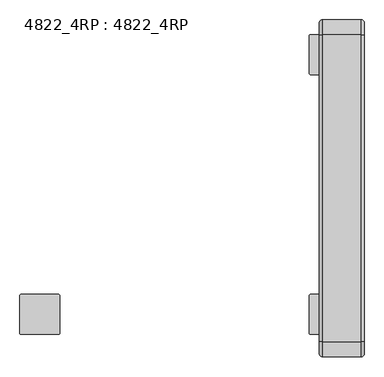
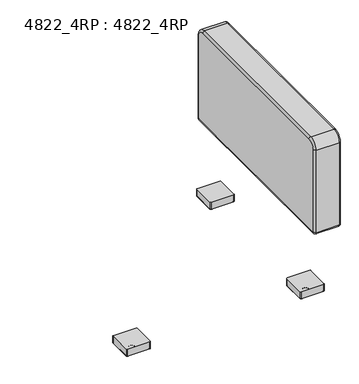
"""IFC4 building model written with IfcOpenShell, lengths in millimetres: furniture geometry, 4822_4RP : 4822_4RP."""

from ifc_helpers import new_model, si_unit, point, frame, frame_2d, origin, place, context, project, spatial, polyline, circle_curve, ellipse_curve, trimmed, segment, composite_curve, outline, extrude, source, transform, mapped, element, save
from ifc_brep_helpers import plane_surface, cylinder_surface, revolved_surface, advanced_brep


def furniture_4822_4rp_4822_4rp_09ea465e(model_context):
    return source(origin(), model_context, "Body", "SolidModel", [
        advanced_brep(
        [(457.2, -8.89, 698.8175), (457.2, -38.1, 728.0275), (457.2, -819.15, 728.0275), (457.2, -848.36, 698.8175), (457.2, -848.36, 330.4403326), (457.2, -847.8021674, 329.8825), (457.2, -9.4347305, 329.8825), (457.2, -8.89, 330.4272305), (342.9, -38.1, 728.0275), (342.9, -8.89, 698.8175), (342.9, -8.89, 330.4272305), (342.9, -9.4347305, 329.8825), (342.9, -847.8021674, 329.8825), (342.9, -848.36, 330.4403326), (342.9, -848.36, 698.8175), (342.9, -819.15, 728.0275), (351.79, -38.1, 736.9175), (351.79, -819.15, 736.9175), (448.31, -819.15, 736.9175), (448.31, -38.1, 736.9175), (351.79, -857.25, 698.8175), (448.31, -857.25, 698.8175), (351.79, -857.25, 330.4403326), (448.31, -857.25, 330.4403326), (351.79, -847.8021674, 320.9925), (448.31, -847.8021674, 320.9925), (351.79, -9.4347305, 320.9925), (448.31, -9.4347305, 320.9925), (400.05, -161.925, 320.9925), (400.05, -187.325, 320.9925), (400.05, -669.925, 320.9925), (400.05, -695.325, 320.9925), (351.79, 0.0, 330.4272305), (448.31, 0.0, 330.4272305), (351.79, 0.0, 698.8175), (448.31, 0.0, 698.8175), (400.05, -161.925, 333.6925), (400.05, -187.325, 333.6925), (400.05, -669.925, 333.6925), (400.05, -695.325, 333.6925)],
        [
            (0, 1, circle_curve(frame((457.2, -38.1, 698.8175), z_axis=(1.0, 0.0, 0.0), x_axis=(0.0, 0.0, 1.0)), 29.21)),
            (1, 2),
            (2, 3, circle_curve(frame((457.2, -819.15, 698.8175), z_axis=(1.0, 0.0, 0.0), x_axis=(0.0, -1.0, 0.0)), 29.21)),
            (3, 4),
            (4, 5, circle_curve(frame((457.2, -847.8021674, 330.4403326), z_axis=(1.0, 0.0, 0.0), x_axis=(0.0, 0.0, -1.0)), 0.5578326)),
            (5, 6),
            (6, 7, circle_curve(frame((457.2, -9.4347305, 330.4272305), z_axis=(1.0, 0.0, 0.0), x_axis=(0.0, 1.0, 0.0)), 0.5447305)),
            (7, 0),
            (8, 9, circle_curve(frame((342.9, -38.1, 698.8175), z_axis=(-1.0, 0.0, 0.0), x_axis=(0.0, 0.0, 1.0)), 29.21)),
            (9, 10),
            (10, 11, circle_curve(frame((342.9, -9.4347305, 330.4272305), z_axis=(-1.0, 0.0, 0.0), x_axis=(0.0, 1.0, 0.0)), 0.5447305)),
            (11, 12),
            (12, 13, circle_curve(frame((342.9, -847.8021674, 330.4403326), z_axis=(-1.0, 0.0, 0.0), x_axis=(0.0, 0.0, -1.0)), 0.5578326)),
            (13, 14),
            (14, 15, circle_curve(frame((342.9, -819.15, 698.8175), z_axis=(-1.0, 0.0, 0.0), x_axis=(0.0, -1.0, 0.0)), 29.21)),
            (15, 8),
            (16, 17),
            (17, 18),
            (18, 19),
            (19, 16),
            (17, 20, circle_curve(frame((351.79, -819.15, 698.8175), z_axis=(1.0, 0.0, 0.0), x_axis=(0.0, -1.0, 0.0)), 38.1)),
            (20, 21),
            (21, 18, circle_curve(frame((448.31, -819.15, 698.8175), z_axis=(-1.0, 0.0, 0.0), x_axis=(0.0, -1.0, 0.0)), 38.1)),
            (20, 22),
            (22, 23),
            (23, 21),
            (22, 24, circle_curve(frame((351.79, -847.8021674, 330.4403326), z_axis=(1.0, 0.0, 0.0), x_axis=(0.0, -1.0, 0.0)), 9.4478326)),
            (24, 25),
            (25, 23, circle_curve(frame((448.31, -847.8021674, 330.4403326), z_axis=(-1.0, 0.0, 0.0), x_axis=(0.0, -1.0, 0.0)), 9.4478326)),
            (24, 26),
            (26, 27),
            (27, 25),
            (28, 29, circle_curve(frame((400.05, -174.625, 320.9925), z_axis=(0.0, 0.0, 1.0), x_axis=(1.0, 0.0, 0.0)), 12.7)),
            (29, 28),
            (30, 31, circle_curve(frame((400.05, -682.625, 320.9925), z_axis=(0.0, 0.0, 1.0), x_axis=(1.0, 0.0, 0.0)), 12.7)),
            (31, 30),
            (26, 32, circle_curve(frame((351.79, -9.4347305, 330.4272305), z_axis=(1.0, 0.0, 0.0), x_axis=(0.0, -1.0, 0.0)), 9.4347305)),
            (32, 33),
            (33, 27, circle_curve(frame((448.31, -9.4347305, 330.4272305), z_axis=(-1.0, 0.0, 0.0), x_axis=(0.0, -1.0, 0.0)), 9.4347305)),
            (32, 34),
            (34, 35),
            (35, 33),
            (34, 16, circle_curve(frame((351.79, -38.1, 698.8175), z_axis=(1.0, 0.0, 0.0), x_axis=(0.0, -1.0, 0.0)), 38.1)),
            (19, 35, circle_curve(frame((448.31, -38.1, 698.8175), z_axis=(-1.0, 0.0, 0.0), x_axis=(0.0, -1.0, 0.0)), 38.1)),
            (34, 9, circle_curve(frame((351.79, -8.89, 698.8175), z_axis=(0.0, 0.0, 1.0), x_axis=(1.0, 0.0, 0.0)), 8.89)),
            (8, 16, circle_curve(frame((351.79, -38.1, 728.0275), z_axis=(0.0, 1.0, 0.0), x_axis=(1.0, 0.0, 0.0)), 8.89)),
            (32, 10, circle_curve(frame((351.79, -8.89, 330.4272305), z_axis=(0.0, 0.0, 1.0), x_axis=(1.0, 0.0, 0.0)), 8.89)),
            (26, 11, circle_curve(frame((351.79, -9.4347305, 329.8825), z_axis=(0.0, 1.0, 0.0), x_axis=(1.0, 0.0, 0.0)), 8.89)),
            (24, 12, circle_curve(frame((351.79, -847.8021674, 329.8825), z_axis=(0.0, 1.0, 0.0), x_axis=(1.0, 0.0, 0.0)), 8.89)),
            (22, 13, circle_curve(frame((351.79, -848.36, 330.4403326), z_axis=(0.0, 0.0, -1.0), x_axis=(1.0, 0.0, 0.0)), 8.89)),
            (20, 14, circle_curve(frame((351.79, -848.36, 698.8175), z_axis=(0.0, 0.0, -1.0), x_axis=(1.0, 0.0, 0.0)), 8.89)),
            (17, 15, circle_curve(frame((351.79, -819.15, 728.0275), z_axis=(0.0, -1.0, 0.0), x_axis=(1.0, 0.0, 0.0)), 8.89)),
            (0, 35, circle_curve(frame((448.31, -8.89, 698.8175), z_axis=(0.0, 0.0, 1.0), x_axis=(-1.0, 0.0, 0.0)), 8.89)),
            (19, 1, circle_curve(frame((448.31, -38.1, 728.0275), z_axis=(0.0, 1.0, 0.0), x_axis=(-1.0, 0.0, 0.0)), 8.89)),
            (7, 33, circle_curve(frame((448.31, -8.89, 330.4272305), z_axis=(0.0, 0.0, 1.0), x_axis=(-1.0, 0.0, 0.0)), 8.89)),
            (6, 27, circle_curve(frame((448.31, -9.4347305, 329.8825), z_axis=(0.0, 1.0, 0.0), x_axis=(-1.0, 0.0, 0.0)), 8.89)),
            (5, 25, circle_curve(frame((448.31, -847.8021674, 329.8825), z_axis=(0.0, 1.0, 0.0), x_axis=(-1.0, 0.0, 0.0)), 8.89)),
            (4, 23, circle_curve(frame((448.31, -848.36, 330.4403326), z_axis=(0.0, 0.0, -1.0), x_axis=(-1.0, 0.0, 0.0)), 8.89)),
            (3, 21, circle_curve(frame((448.31, -848.36, 698.8175), z_axis=(0.0, 0.0, -1.0), x_axis=(-1.0, 0.0, 0.0)), 8.89)),
            (2, 18, circle_curve(frame((448.31, -819.15, 728.0275), z_axis=(0.0, -1.0, 0.0), x_axis=(-1.0, 0.0, 0.0)), 8.89)),
            (36, 37),
            (37, 36, circle_curve(frame((400.05, -174.625, 333.6925), z_axis=(0.0, 0.0, -1.0), x_axis=(1.0, 0.0, 0.0)), 12.7)),
            (38, 39),
            (39, 38, circle_curve(frame((400.05, -682.625, 333.6925), z_axis=(0.0, 0.0, -1.0), x_axis=(1.0, 0.0, 0.0)), 12.7)),
            (37, 29),
            (28, 36),
            (39, 31),
            (30, 38),
        ],
        [
            plane_surface(frame((457.2, -819.15, 736.9175), z_axis=(1.0, 0.0, 0.0), x_axis=(0.0, -1.0, 0.0))),
            plane_surface(frame((342.9, -819.15, 736.9175), z_axis=(-1.0, 0.0, 0.0), x_axis=(0.0, 1.0, 0.0))),
            plane_surface(frame((457.2, -38.1, 736.9175), z_axis=(0.0, 0.0, 1.0), x_axis=(-1.0, 0.0, 0.0))),
            cylinder_surface(frame((342.9, -819.15, 698.8175), z_axis=(1.0, 0.0, 0.0), x_axis=(0.0, -1.0, 0.0)), 38.1),
            plane_surface(frame((457.2, -857.25, 698.8175), z_axis=(0.0, -1.0, 0.0), x_axis=(-1.0, 0.0, 0.0))),
            cylinder_surface(frame((342.9, -847.8021674, 330.4403326), z_axis=(1.0, 0.0, 0.0), x_axis=(0.0, -1.0, 0.0)), 9.4478326),
            plane_surface(frame((457.2, -847.8021674, 320.9925), z_axis=(0.0, 0.0, -1.0), x_axis=(-1.0, 0.0, 0.0))),
            cylinder_surface(frame((342.9, -9.4347305, 330.4272305), z_axis=(1.0, 0.0, 0.0), x_axis=(0.0, -1.0, 0.0)), 9.4347305),
            plane_surface(frame((457.2, 0.0, 330.4272305), z_axis=(0.0, 1.0, 0.0), x_axis=(-1.0, 0.0, 0.0))),
            cylinder_surface(frame((342.9, -38.1, 698.8175), z_axis=(1.0, 0.0, 0.0), x_axis=(0.0, -1.0, 0.0)), 38.1),
            revolved_surface(trimmed(ellipse_curve(frame((351.79, -38.1, 728.0275), z_axis=(0.0, -1.0, 0.0), x_axis=(1.0, 0.0, 0.0)), 8.89, 8.89), [point((351.79, -38.1, 736.9175))], [point((342.9, -38.1, 728.0275))], True, "CARTESIAN"), (342.9, -38.1, 698.8175), (-1.0, 0.0, 0.0)),
            cylinder_surface(frame((351.79, -8.89, 698.8175), z_axis=(0.0, 0.0, -1.0), x_axis=(1.0, 0.0, 0.0)), 8.89),
            revolved_surface(trimmed(ellipse_curve(frame((351.79, -8.89, 330.4272305), z_axis=(0.0, 0.0, 1.0), x_axis=(1.0, 0.0, 0.0)), 8.89, 8.89), [point((351.79, 0.0, 330.4272305))], [point((342.9, -8.89, 330.4272305))], True, "CARTESIAN"), (342.9, -9.4347305, 330.4272305), (-1.0, 0.0, 0.0)),
            cylinder_surface(frame((351.79, -9.4347305, 329.8825), z_axis=(0.0, -1.0, 0.0), x_axis=(1.0, 0.0, 0.0)), 8.89),
            revolved_surface(trimmed(ellipse_curve(frame((351.79, -847.8021674, 329.8825), z_axis=(0.0, 1.0, 0.0), x_axis=(1.0, 0.0, 0.0)), 8.89, 8.89), [point((351.79, -847.8021674, 320.9925))], [point((342.9, -847.8021674, 329.8825))], True, "CARTESIAN"), (342.9, -847.8021674, 330.4403326), (-1.0, 0.0, 0.0)),
            cylinder_surface(frame((351.79, -848.36, 330.4403326), z_axis=(0.0, 0.0, 1.0), x_axis=(1.0, 0.0, 0.0)), 8.89),
            revolved_surface(trimmed(ellipse_curve(frame((351.79, -848.36, 698.8175), z_axis=(0.0, 0.0, -1.0), x_axis=(1.0, 0.0, 0.0)), 8.89, 8.89), [point((351.79, -857.25, 698.8175))], [point((342.9, -848.36, 698.8175))], True, "CARTESIAN"), (342.9, -819.15, 698.8175), (-1.0, 0.0, 0.0)),
            cylinder_surface(frame((351.79, -819.15, 728.0275), z_axis=(0.0, 1.0, 0.0), x_axis=(1.0, 0.0, 0.0)), 8.89),
            revolved_surface(trimmed(ellipse_curve(frame((448.31, -38.1, 728.0275), z_axis=(0.0, -1.0, 0.0), x_axis=(-1.0, 0.0, 0.0)), 8.89, 8.89), [point((457.2, -38.1, 728.0275))], [point((448.31, -38.1, 736.9175))], True, "CARTESIAN"), (457.2, -38.1, 698.8175), (-1.0, 0.0, 0.0)),
            cylinder_surface(frame((448.31, -8.89, 698.8175), z_axis=(0.0, 0.0, -1.0), x_axis=(-1.0, 0.0, 0.0)), 8.89),
            revolved_surface(trimmed(ellipse_curve(frame((448.31, -8.89, 330.4272305), z_axis=(0.0, 0.0, 1.0), x_axis=(-1.0, 0.0, 0.0)), 8.89, 8.89), [point((457.2, -8.89, 330.4272305))], [point((448.31, 0.0, 330.4272305))], True, "CARTESIAN"), (457.2, -9.4347305, 330.4272305), (-1.0, 0.0, 0.0)),
            cylinder_surface(frame((448.31, -9.4347305, 329.8825), z_axis=(0.0, -1.0, 0.0), x_axis=(-1.0, 0.0, 0.0)), 8.89),
            revolved_surface(trimmed(ellipse_curve(frame((448.31, -847.8021674, 329.8825), z_axis=(0.0, 1.0, 0.0), x_axis=(-1.0, 0.0, 0.0)), 8.89, 8.89), [point((457.2, -847.8021674, 329.8825))], [point((448.31, -847.8021674, 320.9925))], True, "CARTESIAN"), (457.2, -847.8021674, 330.4403326), (-1.0, 0.0, 0.0)),
            cylinder_surface(frame((448.31, -848.36, 330.4403326), z_axis=(0.0, 0.0, 1.0), x_axis=(-1.0, 0.0, 0.0)), 8.89),
            revolved_surface(trimmed(ellipse_curve(frame((448.31, -848.36, 698.8175), z_axis=(0.0, 0.0, -1.0), x_axis=(-1.0, 0.0, 0.0)), 8.89, 8.89), [point((457.2, -848.36, 698.8175))], [point((448.31, -857.25, 698.8175))], True, "CARTESIAN"), (457.2, -819.15, 698.8175), (-1.0, 0.0, 0.0)),
            cylinder_surface(frame((448.31, -819.15, 728.0275), z_axis=(0.0, 1.0, 0.0), x_axis=(-1.0, 0.0, 0.0)), 8.89),
            plane_surface(frame((412.75, -174.625, 333.6925), z_axis=(0.0, 0.0, -1.0), x_axis=(0.0, 1.0, 0.0))),
            revolved_surface(polyline([(412.75, -174.625, 333.6925), (412.75, -174.625, 320.9925)]), (400.05, -174.625, 320.9925), (0.0, 0.0, 1.0)),
            plane_surface(frame((400.05, -187.325, 333.6925), z_axis=(-1.0, 0.0, 0.0), x_axis=(0.0, 0.0, -1.0))),
            revolved_surface(polyline([(412.75, -682.625, 333.6925), (412.75, -682.625, 320.9925)]), (400.05, -682.625, 9.8425), (0.0, 0.0, 1.0)),
            plane_surface(frame((400.05, -695.325, 333.6925), z_axis=(-1.0, 0.0, 0.0), x_axis=(0.0, 0.0, -1.0))),
        ],
        [
            (0, [[1, 2, 3, 4, 5, 6, 7, 8]]),
            (1, [[9, 10, 11, 12, 13, 14, 15, 16]]),
            (2, [[17, 18, 19, 20]]),
            (3, [[21, 22, 23, -18]]),
            (4, [[24, 25, 26, -22]]),
            (5, [[27, 28, 29, -25]]),
            (6, [[30, 31, 32, -28], [33, 34], [35, 36]]),
            (7, [[37, 38, 39, -31]]),
            (8, [[40, 41, 42, -38]]),
            (9, [[43, -20, 44, -41]]),
            (10, [[45, -9, 46, -43]]),
            (11, [[-45, -40, 47, -10]]),
            (12, [[-47, -37, 48, -11]]),
            (13, [[-48, -30, 49, -12]]),
            (14, [[-49, -27, 50, -13]]),
            (15, [[-50, -24, 51, -14]]),
            (16, [[-51, -21, 52, -15]]),
            (17, [[-46, -16, -52, -17]]),
            (18, [[53, -44, 54, -1]]),
            (19, [[-53, -8, 55, -42]]),
            (20, [[-55, -7, 56, -39]]),
            (21, [[-56, -6, 57, -32]]),
            (22, [[-57, -5, 58, -29]]),
            (23, [[-58, -4, 59, -26]]),
            (24, [[-59, -3, 60, -23]]),
            (25, [[-54, -19, -60, -2]]),
            (26, [[61, 62]]),
            (26, [[63, 64]]),
            (27, [[-62, 65, -33, 66]]),
            (28, [[-61, -66, -34, -65]]),
            (29, [[-64, 67, -35, 68]]),
            (30, [[-63, -68, -36, -67]]),
        ],
    ),
        advanced_brep(
        [(-320.675, -698.5, 41.5925), (-415.925, -698.5, 41.5925), (-419.1, -701.675, 41.5925), (-419.1, -796.925, 41.5925), (-415.925, -800.1, 41.5925), (-320.675, -800.1, 41.5925), (-317.5, -796.925, 41.5925), (-317.5, -701.675, 41.5925), (-417.83, -701.675, 11.1125), (-415.925, -699.77, 11.1125), (-320.675, -699.77, 11.1125), (-318.77, -701.675, 11.1125), (-318.77, -796.925, 11.1125), (-320.675, -798.83, 11.1125), (-415.925, -798.83, 11.1125), (-417.83, -796.925, 11.1125), (-320.675, -698.5, 11.1125), (-415.925, -698.5, 11.1125), (-419.1, -701.675, 11.1125), (-419.1, -796.925, 11.1125), (-415.925, -800.1, 11.1125), (-320.675, -800.1, 11.1125), (-317.5, -796.925, 11.1125), (-317.5, -701.675, 11.1125), (-415.925, -699.77, 9.8425), (-417.83, -701.675, 9.8425), (-320.675, -699.77, 9.8425), (-318.77, -701.675, 9.8425), (-318.77, -796.925, 9.8425), (-320.675, -798.83, 9.8425), (-415.925, -798.83, 9.8425), (-417.83, -796.925, 9.8425)],
        [
            (0, 1),
            (1, 2, circle_curve(frame((-415.925, -701.675, 41.5925), z_axis=(0.0, 0.0, 1.0), x_axis=(1.0, 0.0, 0.0)), 3.175)),
            (2, 3),
            (3, 4, circle_curve(frame((-415.925, -796.925, 41.5925), z_axis=(0.0, 0.0, 1.0), x_axis=(1.0, 0.0, 0.0)), 3.175)),
            (4, 5),
            (5, 6, circle_curve(frame((-320.675, -796.925, 41.5925), z_axis=(0.0, 0.0, 1.0), x_axis=(1.0, 0.0, 0.0)), 3.175)),
            (6, 7),
            (7, 0, circle_curve(frame((-320.675, -701.675, 41.5925), z_axis=(0.0, 0.0, 1.0), x_axis=(1.0, 0.0, 0.0)), 3.175)),
            (8, 9, circle_curve(frame((-415.925, -701.675, 11.1125), z_axis=(0.0, 0.0, -1.0), x_axis=(-1.0, 0.0, 0.0)), 1.905)),
            (9, 10),
            (10, 11, circle_curve(frame((-320.675, -701.675, 11.1125), z_axis=(0.0, 0.0, -1.0), x_axis=(0.0, 1.0, 0.0)), 1.905)),
            (11, 12),
            (12, 13, circle_curve(frame((-320.675, -796.925, 11.1125), z_axis=(0.0, 0.0, -1.0), x_axis=(1.0, 0.0, 0.0)), 1.905)),
            (13, 14),
            (14, 15, circle_curve(frame((-415.925, -796.925, 11.1125), z_axis=(0.0, 0.0, -1.0), x_axis=(0.0, -1.0, 0.0)), 1.905)),
            (15, 8),
            (0, 16),
            (16, 17),
            (17, 1),
            (17, 18, circle_curve(frame((-415.925, -701.675, 11.1125), z_axis=(0.0, 0.0, 1.0), x_axis=(1.0, 0.0, 0.0)), 3.175)),
            (18, 2),
            (18, 19),
            (19, 3),
            (19, 20, circle_curve(frame((-415.925, -796.925, 11.1125), z_axis=(0.0, 0.0, 1.0), x_axis=(1.0, 0.0, 0.0)), 3.175)),
            (20, 4),
            (20, 21),
            (21, 5),
            (21, 22, circle_curve(frame((-320.675, -796.925, 11.1125), z_axis=(0.0, 0.0, 1.0), x_axis=(1.0, 0.0, 0.0)), 3.175)),
            (22, 6),
            (22, 23),
            (23, 7),
            (23, 16, circle_curve(frame((-320.675, -701.675, 11.1125), z_axis=(0.0, 0.0, 1.0), x_axis=(1.0, 0.0, 0.0)), 3.175)),
            (24, 25, circle_curve(frame((-415.925, -701.675, 9.8425), z_axis=(0.0, 0.0, 1.0), x_axis=(-1.0, 0.0, 0.0)), 1.905)),
            (25, 18, circle_curve(frame((-417.83, -701.675, 11.1125), z_axis=(0.0, 1.0, 0.0), x_axis=(1.0, 0.0, 0.0)), 1.27)),
            (17, 24, circle_curve(frame((-415.925, -699.77, 11.1125), z_axis=(-1.0, 0.0, 0.0), x_axis=(0.0, -1.0, 0.0)), 1.27)),
            (16, 26, circle_curve(frame((-320.675, -699.77, 11.1125), z_axis=(-1.0, 0.0, 0.0), x_axis=(0.0, -1.0, 0.0)), 1.27)),
            (26, 24),
            (23, 27, circle_curve(frame((-318.77, -701.675, 11.1125), z_axis=(0.0, 1.0, 0.0), x_axis=(-1.0, 0.0, 0.0)), 1.27)),
            (27, 26, circle_curve(frame((-320.675, -701.675, 9.8425), z_axis=(0.0, 0.0, 1.0), x_axis=(0.0, 1.0, 0.0)), 1.905)),
            (22, 28, circle_curve(frame((-318.77, -796.925, 11.1125), z_axis=(0.0, 1.0, 0.0), x_axis=(-1.0, 0.0, 0.0)), 1.27)),
            (28, 27),
            (21, 29, circle_curve(frame((-320.675, -798.83, 11.1125), z_axis=(1.0, 0.0, 0.0), x_axis=(0.0, 1.0, 0.0)), 1.27)),
            (29, 28, circle_curve(frame((-320.675, -796.925, 9.8425), z_axis=(0.0, 0.0, 1.0), x_axis=(1.0, 0.0, 0.0)), 1.905)),
            (20, 30, circle_curve(frame((-415.925, -798.83, 11.1125), z_axis=(1.0, 0.0, 0.0), x_axis=(0.0, 1.0, 0.0)), 1.27)),
            (30, 29),
            (19, 31, circle_curve(frame((-417.83, -796.925, 11.1125), z_axis=(0.0, -1.0, 0.0), x_axis=(1.0, 0.0, 0.0)), 1.27)),
            (31, 30, circle_curve(frame((-415.925, -796.925, 9.8425), z_axis=(0.0, 0.0, 1.0), x_axis=(0.0, -1.0, 0.0)), 1.905)),
            (25, 31),
            (24, 9),
            (8, 25),
            (26, 10),
            (27, 11),
            (28, 12),
            (29, 13),
            (30, 14),
            (31, 15),
        ],
        [
            plane_surface(frame((-415.925, -698.5, 41.5925), z_axis=(0.0, 0.0, 1.0), x_axis=(-1.0, 0.0, 0.0))),
            plane_surface(frame((-415.925, -698.5, 11.1125), z_axis=(0.0, 0.0, -1.0), x_axis=(1.0, 0.0, 0.0))),
            plane_surface(frame((-320.675, -698.5, 41.5925), z_axis=(0.0, 1.0, 0.0), x_axis=(0.0, 0.0, -1.0))),
            cylinder_surface(frame((-415.925, -701.675, 11.1125), z_axis=(0.0, 0.0, 1.0), x_axis=(1.0, 0.0, 0.0)), 3.175),
            plane_surface(frame((-419.1, -701.675, 41.5925), z_axis=(-1.0, 0.0, 0.0), x_axis=(0.0, 0.0, -1.0))),
            cylinder_surface(frame((-415.925, -796.925, 11.1125), z_axis=(0.0, 0.0, 1.0), x_axis=(1.0, 0.0, 0.0)), 3.175),
            plane_surface(frame((-415.925, -800.1, 41.5925), z_axis=(0.0, -1.0, 0.0), x_axis=(0.0, 0.0, -1.0))),
            cylinder_surface(frame((-320.675, -796.925, 11.1125), z_axis=(0.0, 0.0, 1.0), x_axis=(1.0, 0.0, 0.0)), 3.175),
            plane_surface(frame((-317.5, -796.925, 41.5925), z_axis=(1.0, 0.0, 0.0), x_axis=(0.0, 0.0, -1.0))),
            cylinder_surface(frame((-320.675, -701.675, 11.1125), z_axis=(0.0, 0.0, 1.0), x_axis=(1.0, 0.0, 0.0)), 3.175),
            revolved_surface(trimmed(ellipse_curve(frame((-417.83, -701.675, 11.1125), z_axis=(0.0, -1.0, 0.0), x_axis=(1.0, 0.0, 0.0)), 1.27, 1.27), [point((-419.1, -701.675, 11.1125))], [point((-417.83, -701.675, 9.8425))], True, "CARTESIAN"), (-415.925, -701.675, 11.1125), (0.0, 0.0, -1.0)),
            cylinder_surface(frame((-415.925, -699.77, 11.1125), z_axis=(-1.0, 0.0, 0.0), x_axis=(0.0, -1.0, 0.0)), 1.27),
            revolved_surface(trimmed(ellipse_curve(frame((-320.675, -699.77, 11.1125), z_axis=(-1.0, 0.0, 0.0), x_axis=(0.0, -1.0, 0.0)), 1.27, 1.27), [point((-320.675, -698.5, 11.1125))], [point((-320.675, -699.77, 9.8425))], True, "CARTESIAN"), (-320.675, -701.675, 11.1125), (0.0, 0.0, -1.0)),
            cylinder_surface(frame((-318.77, -701.675, 11.1125), z_axis=(0.0, 1.0, 0.0), x_axis=(-1.0, 0.0, 0.0)), 1.27),
            revolved_surface(trimmed(ellipse_curve(frame((-318.77, -796.925, 11.1125), z_axis=(0.0, 1.0, 0.0), x_axis=(-1.0, 0.0, 0.0)), 1.27, 1.27), [point((-317.5, -796.925, 11.1125))], [point((-318.77, -796.925, 9.8425))], True, "CARTESIAN"), (-320.675, -796.925, 11.1125), (0.0, 0.0, -1.0)),
            cylinder_surface(frame((-320.675, -798.83, 11.1125), z_axis=(1.0, 0.0, 0.0), x_axis=(0.0, 1.0, 0.0)), 1.27),
            revolved_surface(trimmed(ellipse_curve(frame((-415.925, -798.83, 11.1125), z_axis=(1.0, 0.0, 0.0), x_axis=(0.0, 1.0, 0.0)), 1.27, 1.27), [point((-415.925, -800.1, 11.1125))], [point((-415.925, -798.83, 9.8425))], True, "CARTESIAN"), (-415.925, -796.925, 11.1125), (0.0, 0.0, -1.0)),
            cylinder_surface(frame((-417.83, -796.925, 11.1125), z_axis=(0.0, -1.0, 0.0), x_axis=(1.0, 0.0, 0.0)), 1.27),
            revolved_surface(polyline([(-417.83, -701.675, 9.8425), (-417.83, -701.675, 11.1125)]), (-415.925, -701.675, 11.1125), (0.0, 0.0, -1.0)),
            plane_surface(frame((-415.925, -699.77, 9.8425), z_axis=(0.0, -1.0, 0.0), x_axis=(1.0, 0.0, 0.0))),
            revolved_surface(polyline([(-320.675, -699.77, 9.8425), (-320.675, -699.77, 11.1125)]), (-320.675, -701.675, 11.1125), (0.0, 0.0, -1.0)),
            plane_surface(frame((-318.77, -701.675, 9.8425), z_axis=(-1.0, 0.0, 0.0), x_axis=(0.0, -1.0, 0.0))),
            revolved_surface(polyline([(-318.77000000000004, -796.925, 9.8425), (-318.77000000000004, -796.925, 11.1125)]), (-320.675, -796.925, 11.1125), (0.0, 0.0, -1.0)),
            plane_surface(frame((-320.675, -798.83, 9.8425), z_axis=(0.0, 1.0, 0.0), x_axis=(-1.0, 0.0, 0.0))),
            revolved_surface(polyline([(-415.925, -798.8299999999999, 9.8425), (-415.925, -798.8299999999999, 11.1125)]), (-415.925, -796.925, 11.1125), (0.0, 0.0, -1.0)),
            plane_surface(frame((-417.83, -796.925, 9.8425), z_axis=(1.0, 0.0, 0.0), x_axis=(0.0, 1.0, 0.0))),
        ],
        [
            (0, [[1, 2, 3, 4, 5, 6, 7, 8]]),
            (1, [[9, 10, 11, 12, 13, 14, 15, 16]]),
            (2, [[-1, 17, 18, 19]]),
            (3, [[-2, -19, 20, 21]]),
            (4, [[-3, -21, 22, 23]]),
            (5, [[-4, -23, 24, 25]]),
            (6, [[-5, -25, 26, 27]]),
            (7, [[-6, -27, 28, 29]]),
            (8, [[-7, -29, 30, 31]]),
            (9, [[-8, -31, 32, -17]]),
            (10, [[33, 34, -20, 35]]),
            (11, [[-35, -18, 36, 37]]),
            (12, [[-36, -32, 38, 39]]),
            (13, [[-38, -30, 40, 41]]),
            (14, [[-40, -28, 42, 43]]),
            (15, [[-42, -26, 44, 45]]),
            (16, [[-44, -24, 46, 47]]),
            (17, [[-34, 48, -46, -22]]),
            (18, [[-33, 49, -9, 50]]),
            (19, [[-37, 51, -10, -49]]),
            (20, [[-39, 52, -11, -51]]),
            (21, [[-41, 53, -12, -52]]),
            (22, [[-43, 54, -13, -53]]),
            (23, [[-45, 55, -14, -54]]),
            (24, [[-47, 56, -15, -55]]),
            (25, [[-48, -50, -16, -56]]),
        ],
    ),
        extrude(outline(composite_curve([segment(trimmed(circle_curve(frame_2d((-415.925, -796.925)), 1.905), [point((-415.925, -798.83))], [point((-417.83, -796.925))], False, "CARTESIAN"), True, "CONTINUOUS"), segment(polyline([(-417.83, -796.925), (-417.83, -701.675)]), True, "CONTINUOUS"), segment(trimmed(circle_curve(frame_2d((-415.925, -701.675)), 1.905), [point((-417.83, -701.675))], [point((-415.925, -699.77))], False, "CARTESIAN"), True, "CONTINUOUS"), segment(polyline([(-415.925, -699.77), (-320.675, -699.77)]), True, "CONTINUOUS"), segment(trimmed(circle_curve(frame_2d((-320.675, -701.675)), 1.905), [point((-320.675, -699.77))], [point((-318.77, -701.675))], False, "CARTESIAN"), True, "CONTINUOUS"), segment(polyline([(-318.77, -701.675), (-318.77, -796.925)]), True, "CONTINUOUS"), segment(trimmed(circle_curve(frame_2d((-320.675, -796.925)), 1.905), [point((-318.77, -796.925))], [point((-320.675, -798.83))], False, "CARTESIAN"), True, "CONTINUOUS"), segment(polyline([(-320.675, -798.83), (-415.925, -798.83)]), True, "CONTINUOUS")], self_intersect=False)), frame((0.0, 0.0, 9.8425), z_axis=(0.0, 0.0, 1.0), x_axis=(1.0, 0.0, 0.0)), (0.0, 0.0, 1.0), 1.27),
        advanced_brep(
        [(-378.4521334, -749.3, 0.0), (-358.1478666, -749.3, 0.0), (-368.3, -749.3, 0.0), (-378.7775, -749.3, 5.08), (-357.8225, -749.3, 5.08), (-378.7775, -749.3, 9.0481974), (-357.8225, -749.3, 9.0481974), (-377.9831974, -749.3, 9.8425), (-358.6168026, -749.3, 9.8425), (-368.3, -749.3, 9.8425)],
        [
            (0, 1, circle_curve(frame((-368.3, -749.3, 0.0), z_axis=(0.0, 0.0, -1.0), x_axis=(1.0, 0.0, 0.0)), 10.1521334)),
            (1, 2),
            (2, 0),
            (1, 0, circle_curve(frame((-368.3, -749.3, 0.0), z_axis=(0.0, 0.0, -1.0), x_axis=(1.0, 0.0, 0.0)), 10.1521334)),
            (3, 4, circle_curve(frame((-368.3, -749.3, 5.08), z_axis=(0.0, 0.0, -1.0), x_axis=(1.0, 0.0, 0.0)), 10.4775)),
            (4, 1, circle_curve(frame((-358.1478666, -749.3, 2.5504196), z_axis=(0.0, 1.0, 0.0), x_axis=(1.0, 0.0, 0.0)), 2.5504196)),
            (0, 3, circle_curve(frame((-378.4521334, -749.3, 2.5504196), z_axis=(0.0, 1.0, 0.0), x_axis=(-1.0, 0.0, 0.0)), 2.5504196)),
            (4, 3, circle_curve(frame((-368.3, -749.3, 5.08), z_axis=(0.0, 0.0, -1.0), x_axis=(1.0, 0.0, 0.0)), 10.4775)),
            (5, 6, circle_curve(frame((-368.3, -749.3, 9.0481974), z_axis=(0.0, 0.0, -1.0), x_axis=(1.0, 0.0, 0.0)), 10.4775)),
            (6, 4),
            (3, 5),
            (6, 5, circle_curve(frame((-368.3, -749.3, 9.0481974), z_axis=(0.0, 0.0, -1.0), x_axis=(1.0, 0.0, 0.0)), 10.4775)),
            (7, 8, circle_curve(frame((-368.3, -749.3, 9.8425), z_axis=(0.0, 0.0, -1.0), x_axis=(1.0, 0.0, 0.0)), 9.6831974)),
            (8, 6, circle_curve(frame((-358.6168026, -749.3, 9.0481974), z_axis=(0.0, 1.0, 0.0), x_axis=(1.0, 0.0, 0.0)), 0.7943026)),
            (5, 7, circle_curve(frame((-377.9831974, -749.3, 9.0481974), z_axis=(0.0, 1.0, 0.0), x_axis=(-1.0, 0.0, 0.0)), 0.7943026)),
            (8, 7, circle_curve(frame((-368.3, -749.3, 9.8425), z_axis=(0.0, 0.0, -1.0), x_axis=(1.0, 0.0, 0.0)), 9.6831974)),
            (9, 8),
            (7, 9),
        ],
        [
            plane_surface(frame((-368.3, -749.3, 0.0), z_axis=(0.0, 0.0, -1.0), x_axis=(1.0, 0.0, 0.0))),
            revolved_surface(trimmed(ellipse_curve(frame((-358.1478666, -749.3, 2.5504196), z_axis=(0.0, -1.0, 0.0), x_axis=(1.0, 0.0, 0.0)), 2.5504196, 2.5504196), [point((-358.1478666, -749.3, 0.0))], [point((-357.8225, -749.3, 5.08))], True, "CARTESIAN"), (-368.3, -749.3, 9.8425), (0.0, 0.0, 1.0)),
            cylinder_surface(frame((-368.3, -749.3, 9.8425), z_axis=(0.0, 0.0, 1.0), x_axis=(1.0, 0.0, 0.0)), 10.4775),
            revolved_surface(trimmed(ellipse_curve(frame((-358.6168026, -749.3, 9.0481974), z_axis=(0.0, -1.0, 0.0), x_axis=(1.0, 0.0, 0.0)), 0.7943026, 0.7943026), [point((-357.8225, -749.3, 9.0481974))], [point((-358.6168026, -749.3, 9.8425))], True, "CARTESIAN"), (-368.3, -749.3, 9.8425), (0.0, 0.0, 1.0)),
            plane_surface(frame((-368.3, -749.3, 9.8425), z_axis=(0.0, 0.0, 1.0), x_axis=(1.0, 0.0, 0.0))),
        ],
        [
            (0, [[1, 2, 3]]),
            (0, [[4, -3, -2]]),
            (1, [[5, 6, -1, 7]]),
            (1, [[8, -7, -4, -6]]),
            (2, [[9, 10, -5, 11]]),
            (2, [[12, -11, -8, -10]]),
            (3, [[13, 14, -9, 15]]),
            (3, [[16, -15, -12, -14]]),
            (4, [[17, -13, 18]]),
            (4, [[-18, -16, -17]]),
        ],
    ),
        advanced_brep(
        [(415.925, -698.5, 41.5925), (320.675, -698.5, 41.5925), (317.5, -701.675, 41.5925), (317.5, -796.925, 41.5925), (320.675, -800.1, 41.5925), (415.925, -800.1, 41.5925), (419.1, -796.925, 41.5925), (419.1, -701.675, 41.5925), (318.77, -701.675, 11.1125), (320.675, -699.77, 11.1125), (415.925, -699.77, 11.1125), (417.83, -701.675, 11.1125), (417.83, -796.925, 11.1125), (415.925, -798.83, 11.1125), (320.675, -798.83, 11.1125), (318.77, -796.925, 11.1125), (415.925, -698.5, 11.1125), (320.675, -698.5, 11.1125), (317.5, -701.675, 11.1125), (317.5, -796.925, 11.1125), (320.675, -800.1, 11.1125), (415.925, -800.1, 11.1125), (419.1, -796.925, 11.1125), (419.1, -701.675, 11.1125), (320.675, -699.77, 9.8425), (318.77, -701.675, 9.8425), (415.925, -699.77, 9.8425), (417.83, -701.675, 9.8425), (417.83, -796.925, 9.8425), (415.925, -798.83, 9.8425), (320.675, -798.83, 9.8425), (318.77, -796.925, 9.8425)],
        [
            (0, 1),
            (1, 2, circle_curve(frame((320.675, -701.675, 41.5925), z_axis=(0.0, 0.0, 1.0), x_axis=(1.0, 0.0, 0.0)), 3.175)),
            (2, 3),
            (3, 4, circle_curve(frame((320.675, -796.925, 41.5925), z_axis=(0.0, 0.0, 1.0), x_axis=(1.0, 0.0, 0.0)), 3.175)),
            (4, 5),
            (5, 6, circle_curve(frame((415.925, -796.925, 41.5925), z_axis=(0.0, 0.0, 1.0), x_axis=(1.0, 0.0, 0.0)), 3.175)),
            (6, 7),
            (7, 0, circle_curve(frame((415.925, -701.675, 41.5925), z_axis=(0.0, 0.0, 1.0), x_axis=(1.0, 0.0, 0.0)), 3.175)),
            (8, 9, circle_curve(frame((320.675, -701.675, 11.1125), z_axis=(0.0, 0.0, -1.0), x_axis=(-1.0, 0.0, 0.0)), 1.905)),
            (9, 10),
            (10, 11, circle_curve(frame((415.925, -701.675, 11.1125), z_axis=(0.0, 0.0, -1.0), x_axis=(0.0, 1.0, 0.0)), 1.905)),
            (11, 12),
            (12, 13, circle_curve(frame((415.925, -796.925, 11.1125), z_axis=(0.0, 0.0, -1.0), x_axis=(1.0, 0.0, 0.0)), 1.905)),
            (13, 14),
            (14, 15, circle_curve(frame((320.675, -796.925, 11.1125), z_axis=(0.0, 0.0, -1.0), x_axis=(0.0, -1.0, 0.0)), 1.905)),
            (15, 8),
            (0, 16),
            (16, 17),
            (17, 1),
            (17, 18, circle_curve(frame((320.675, -701.675, 11.1125), z_axis=(0.0, 0.0, 1.0), x_axis=(1.0, 0.0, 0.0)), 3.175)),
            (18, 2),
            (18, 19),
            (19, 3),
            (19, 20, circle_curve(frame((320.675, -796.925, 11.1125), z_axis=(0.0, 0.0, 1.0), x_axis=(1.0, 0.0, 0.0)), 3.175)),
            (20, 4),
            (20, 21),
            (21, 5),
            (21, 22, circle_curve(frame((415.925, -796.925, 11.1125), z_axis=(0.0, 0.0, 1.0), x_axis=(1.0, 0.0, 0.0)), 3.175)),
            (22, 6),
            (22, 23),
            (23, 7),
            (23, 16, circle_curve(frame((415.925, -701.675, 11.1125), z_axis=(0.0, 0.0, 1.0), x_axis=(1.0, 0.0, 0.0)), 3.175)),
            (24, 25, circle_curve(frame((320.675, -701.675, 9.8425), z_axis=(0.0, 0.0, 1.0), x_axis=(-1.0, 0.0, 0.0)), 1.905)),
            (25, 18, circle_curve(frame((318.77, -701.675, 11.1125), z_axis=(0.0, 1.0, 0.0), x_axis=(1.0, 0.0, 0.0)), 1.27)),
            (17, 24, circle_curve(frame((320.675, -699.77, 11.1125), z_axis=(-1.0, 0.0, 0.0), x_axis=(0.0, -1.0, 0.0)), 1.27)),
            (16, 26, circle_curve(frame((415.925, -699.77, 11.1125), z_axis=(-1.0, 0.0, 0.0), x_axis=(0.0, -1.0, 0.0)), 1.27)),
            (26, 24),
            (23, 27, circle_curve(frame((417.83, -701.675, 11.1125), z_axis=(0.0, 1.0, 0.0), x_axis=(-1.0, 0.0, 0.0)), 1.27)),
            (27, 26, circle_curve(frame((415.925, -701.675, 9.8425), z_axis=(0.0, 0.0, 1.0), x_axis=(0.0, 1.0, 0.0)), 1.905)),
            (22, 28, circle_curve(frame((417.83, -796.925, 11.1125), z_axis=(0.0, 1.0, 0.0), x_axis=(-1.0, 0.0, 0.0)), 1.27)),
            (28, 27),
            (21, 29, circle_curve(frame((415.925, -798.83, 11.1125), z_axis=(1.0, 0.0, 0.0), x_axis=(0.0, 1.0, 0.0)), 1.27)),
            (29, 28, circle_curve(frame((415.925, -796.925, 9.8425), z_axis=(0.0, 0.0, 1.0), x_axis=(1.0, 0.0, 0.0)), 1.905)),
            (20, 30, circle_curve(frame((320.675, -798.83, 11.1125), z_axis=(1.0, 0.0, 0.0), x_axis=(0.0, 1.0, 0.0)), 1.27)),
            (30, 29),
            (19, 31, circle_curve(frame((318.77, -796.925, 11.1125), z_axis=(0.0, -1.0, 0.0), x_axis=(1.0, 0.0, 0.0)), 1.27)),
            (31, 30, circle_curve(frame((320.675, -796.925, 9.8425), z_axis=(0.0, 0.0, 1.0), x_axis=(0.0, -1.0, 0.0)), 1.905)),
            (25, 31),
            (24, 9),
            (8, 25),
            (26, 10),
            (27, 11),
            (28, 12),
            (29, 13),
            (30, 14),
            (31, 15),
        ],
        [
            plane_surface(frame((320.675, -698.5, 41.5925), z_axis=(0.0, 0.0, 1.0), x_axis=(-1.0, 0.0, 0.0))),
            plane_surface(frame((320.675, -698.5, 11.1125), z_axis=(0.0, 0.0, -1.0), x_axis=(1.0, 0.0, 0.0))),
            plane_surface(frame((415.925, -698.5, 41.5925), z_axis=(0.0, 1.0, 0.0), x_axis=(0.0, 0.0, -1.0))),
            cylinder_surface(frame((320.675, -701.675, 11.1125), z_axis=(0.0, 0.0, 1.0), x_axis=(1.0, 0.0, 0.0)), 3.175),
            plane_surface(frame((317.5, -701.675, 41.5925), z_axis=(-1.0, 0.0, 0.0), x_axis=(0.0, 0.0, -1.0))),
            cylinder_surface(frame((320.675, -796.925, 11.1125), z_axis=(0.0, 0.0, 1.0), x_axis=(1.0, 0.0, 0.0)), 3.175),
            plane_surface(frame((320.675, -800.1, 41.5925), z_axis=(0.0, -1.0, 0.0), x_axis=(0.0, 0.0, -1.0))),
            cylinder_surface(frame((415.925, -796.925, 11.1125), z_axis=(0.0, 0.0, 1.0), x_axis=(1.0, 0.0, 0.0)), 3.175),
            plane_surface(frame((419.1, -796.925, 41.5925), z_axis=(1.0, 0.0, 0.0), x_axis=(0.0, 0.0, -1.0))),
            cylinder_surface(frame((415.925, -701.675, 11.1125), z_axis=(0.0, 0.0, 1.0), x_axis=(1.0, 0.0, 0.0)), 3.175),
            revolved_surface(trimmed(ellipse_curve(frame((318.77, -701.675, 11.1125), z_axis=(0.0, -1.0, 0.0), x_axis=(1.0, 0.0, 0.0)), 1.27, 1.27), [point((317.5, -701.675, 11.1125))], [point((318.77, -701.675, 9.8425))], True, "CARTESIAN"), (320.675, -701.675, 11.1125), (0.0, 0.0, -1.0)),
            cylinder_surface(frame((320.675, -699.77, 11.1125), z_axis=(-1.0, 0.0, 0.0), x_axis=(0.0, -1.0, 0.0)), 1.27),
            revolved_surface(trimmed(ellipse_curve(frame((415.925, -699.77, 11.1125), z_axis=(-1.0, 0.0, 0.0), x_axis=(0.0, -1.0, 0.0)), 1.27, 1.27), [point((415.925, -698.5, 11.1125))], [point((415.925, -699.77, 9.8425))], True, "CARTESIAN"), (415.925, -701.675, 11.1125), (0.0, 0.0, -1.0)),
            cylinder_surface(frame((417.83, -701.675, 11.1125), z_axis=(0.0, 1.0, 0.0), x_axis=(-1.0, 0.0, 0.0)), 1.27),
            revolved_surface(trimmed(ellipse_curve(frame((417.83, -796.925, 11.1125), z_axis=(0.0, 1.0, 0.0), x_axis=(-1.0, 0.0, 0.0)), 1.27, 1.27), [point((419.1, -796.925, 11.1125))], [point((417.83, -796.925, 9.8425))], True, "CARTESIAN"), (415.925, -796.925, 11.1125), (0.0, 0.0, -1.0)),
            cylinder_surface(frame((415.925, -798.83, 11.1125), z_axis=(1.0, 0.0, 0.0), x_axis=(0.0, 1.0, 0.0)), 1.27),
            revolved_surface(trimmed(ellipse_curve(frame((320.675, -798.83, 11.1125), z_axis=(1.0, 0.0, 0.0), x_axis=(0.0, 1.0, 0.0)), 1.27, 1.27), [point((320.675, -800.1, 11.1125))], [point((320.675, -798.83, 9.8425))], True, "CARTESIAN"), (320.675, -796.925, 11.1125), (0.0, 0.0, -1.0)),
            cylinder_surface(frame((318.77, -796.925, 11.1125), z_axis=(0.0, -1.0, 0.0), x_axis=(1.0, 0.0, 0.0)), 1.27),
            revolved_surface(polyline([(318.77000000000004, -701.675, 9.8425), (318.77000000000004, -701.675, 11.1125)]), (320.675, -701.675, 11.1125), (0.0, 0.0, -1.0)),
            plane_surface(frame((320.675, -699.77, 9.8425), z_axis=(0.0, -1.0, 0.0), x_axis=(1.0, 0.0, 0.0))),
            revolved_surface(polyline([(415.925, -699.77, 9.8425), (415.925, -699.77, 11.1125)]), (415.925, -701.675, 11.1125), (0.0, 0.0, -1.0)),
            plane_surface(frame((417.83, -701.675, 9.8425), z_axis=(-1.0, 0.0, 0.0), x_axis=(0.0, -1.0, 0.0))),
            revolved_surface(polyline([(417.83, -796.925, 9.8425), (417.83, -796.925, 11.1125)]), (415.925, -796.925, 11.1125), (0.0, 0.0, -1.0)),
            plane_surface(frame((415.925, -798.83, 9.8425), z_axis=(0.0, 1.0, 0.0), x_axis=(-1.0, 0.0, 0.0))),
            revolved_surface(polyline([(320.675, -798.8299999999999, 9.8425), (320.675, -798.8299999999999, 11.1125)]), (320.675, -796.925, 11.1125), (0.0, 0.0, -1.0)),
            plane_surface(frame((318.77, -796.925, 9.8425), z_axis=(1.0, 0.0, 0.0), x_axis=(0.0, 1.0, 0.0))),
        ],
        [
            (0, [[1, 2, 3, 4, 5, 6, 7, 8]]),
            (1, [[9, 10, 11, 12, 13, 14, 15, 16]]),
            (2, [[-1, 17, 18, 19]]),
            (3, [[-2, -19, 20, 21]]),
            (4, [[-3, -21, 22, 23]]),
            (5, [[-4, -23, 24, 25]]),
            (6, [[-5, -25, 26, 27]]),
            (7, [[-6, -27, 28, 29]]),
            (8, [[-7, -29, 30, 31]]),
            (9, [[-8, -31, 32, -17]]),
            (10, [[33, 34, -20, 35]]),
            (11, [[-35, -18, 36, 37]]),
            (12, [[-36, -32, 38, 39]]),
            (13, [[-38, -30, 40, 41]]),
            (14, [[-40, -28, 42, 43]]),
            (15, [[-42, -26, 44, 45]]),
            (16, [[-44, -24, 46, 47]]),
            (17, [[-34, 48, -46, -22]]),
            (18, [[-33, 49, -9, 50]]),
            (19, [[-37, 51, -10, -49]]),
            (20, [[-39, 52, -11, -51]]),
            (21, [[-41, 53, -12, -52]]),
            (22, [[-43, 54, -13, -53]]),
            (23, [[-45, 55, -14, -54]]),
            (24, [[-47, 56, -15, -55]]),
            (25, [[-48, -50, -16, -56]]),
        ],
    ),
        extrude(outline(composite_curve([segment(trimmed(circle_curve(frame_2d((320.675, -796.925)), 1.905), [point((320.675, -798.83))], [point((318.77, -796.925))], False, "CARTESIAN"), True, "CONTINUOUS"), segment(polyline([(318.77, -796.925), (318.77, -701.675)]), True, "CONTINUOUS"), segment(trimmed(circle_curve(frame_2d((320.675, -701.675)), 1.905), [point((318.77, -701.675))], [point((320.675, -699.77))], False, "CARTESIAN"), True, "CONTINUOUS"), segment(polyline([(320.675, -699.77), (415.925, -699.77)]), True, "CONTINUOUS"), segment(trimmed(circle_curve(frame_2d((415.925, -701.675)), 1.905), [point((415.925, -699.77))], [point((417.83, -701.675))], False, "CARTESIAN"), True, "CONTINUOUS"), segment(polyline([(417.83, -701.675), (417.83, -796.925)]), True, "CONTINUOUS"), segment(trimmed(circle_curve(frame_2d((415.925, -796.925)), 1.905), [point((417.83, -796.925))], [point((415.925, -798.83))], False, "CARTESIAN"), True, "CONTINUOUS"), segment(polyline([(415.925, -798.83), (320.675, -798.83)]), True, "CONTINUOUS")], self_intersect=False)), frame((0.0, 0.0, 9.8425), z_axis=(0.0, 0.0, 1.0), x_axis=(1.0, 0.0, 0.0)), (0.0, 0.0, 1.0), 1.27),
        advanced_brep(
        [(358.1478666, -749.3, 0.0), (378.4521334, -749.3, 0.0), (368.3, -749.3, 0.0), (357.8225, -749.3, 5.08), (378.7775, -749.3, 5.08), (357.8225, -749.3, 9.0481974), (378.7775, -749.3, 9.0481974), (358.6168026, -749.3, 9.8425), (377.9831974, -749.3, 9.8425), (368.3, -749.3, 9.8425)],
        [
            (0, 1, circle_curve(frame((368.3, -749.3, 0.0), z_axis=(0.0, 0.0, -1.0), x_axis=(1.0, 0.0, 0.0)), 10.1521334)),
            (1, 2),
            (2, 0),
            (1, 0, circle_curve(frame((368.3, -749.3, 0.0), z_axis=(0.0, 0.0, -1.0), x_axis=(1.0, 0.0, 0.0)), 10.1521334)),
            (3, 4, circle_curve(frame((368.3, -749.3, 5.08), z_axis=(0.0, 0.0, -1.0), x_axis=(1.0, 0.0, 0.0)), 10.4775)),
            (4, 1, circle_curve(frame((378.4521334, -749.3, 2.5504196), z_axis=(0.0, 1.0, 0.0), x_axis=(1.0, 0.0, 0.0)), 2.5504196)),
            (0, 3, circle_curve(frame((358.1478666, -749.3, 2.5504196), z_axis=(0.0, 1.0, 0.0), x_axis=(-1.0, 0.0, 0.0)), 2.5504196)),
            (4, 3, circle_curve(frame((368.3, -749.3, 5.08), z_axis=(0.0, 0.0, -1.0), x_axis=(1.0, 0.0, 0.0)), 10.4775)),
            (5, 6, circle_curve(frame((368.3, -749.3, 9.0481974), z_axis=(0.0, 0.0, -1.0), x_axis=(1.0, 0.0, 0.0)), 10.4775)),
            (6, 4),
            (3, 5),
            (6, 5, circle_curve(frame((368.3, -749.3, 9.0481974), z_axis=(0.0, 0.0, -1.0), x_axis=(1.0, 0.0, 0.0)), 10.4775)),
            (7, 8, circle_curve(frame((368.3, -749.3, 9.8425), z_axis=(0.0, 0.0, -1.0), x_axis=(1.0, 0.0, 0.0)), 9.6831974)),
            (8, 6, circle_curve(frame((377.9831974, -749.3, 9.0481974), z_axis=(0.0, 1.0, 0.0), x_axis=(1.0, 0.0, 0.0)), 0.7943026)),
            (5, 7, circle_curve(frame((358.6168026, -749.3, 9.0481974), z_axis=(0.0, 1.0, 0.0), x_axis=(-1.0, 0.0, 0.0)), 0.7943026)),
            (8, 7, circle_curve(frame((368.3, -749.3, 9.8425), z_axis=(0.0, 0.0, -1.0), x_axis=(1.0, 0.0, 0.0)), 9.6831974)),
            (9, 8),
            (7, 9),
        ],
        [
            plane_surface(frame((368.3, -749.3, 0.0), z_axis=(0.0, 0.0, -1.0), x_axis=(1.0, 0.0, 0.0))),
            revolved_surface(trimmed(ellipse_curve(frame((378.4521334, -749.3, 2.5504196), z_axis=(0.0, -1.0, 0.0), x_axis=(1.0, 0.0, 0.0)), 2.5504196, 2.5504196), [point((378.4521334, -749.3, 0.0))], [point((378.7775, -749.3, 5.08))], True, "CARTESIAN"), (368.3, -749.3, 9.8425), (0.0, 0.0, 1.0)),
            cylinder_surface(frame((368.3, -749.3, 9.8425), z_axis=(0.0, 0.0, 1.0), x_axis=(1.0, 0.0, 0.0)), 10.4775),
            revolved_surface(trimmed(ellipse_curve(frame((377.9831974, -749.3, 9.0481974), z_axis=(0.0, -1.0, 0.0), x_axis=(1.0, 0.0, 0.0)), 0.7943026, 0.7943026), [point((378.7775, -749.3, 9.0481974))], [point((377.9831974, -749.3, 9.8425))], True, "CARTESIAN"), (368.3, -749.3, 9.8425), (0.0, 0.0, 1.0)),
            plane_surface(frame((368.3, -749.3, 9.8425), z_axis=(0.0, 0.0, 1.0), x_axis=(1.0, 0.0, 0.0))),
        ],
        [
            (0, [[1, 2, 3]]),
            (0, [[4, -3, -2]]),
            (1, [[5, 6, -1, 7]]),
            (1, [[8, -7, -4, -6]]),
            (2, [[9, 10, -5, 11]]),
            (2, [[12, -11, -8, -10]]),
            (3, [[13, 14, -9, 15]]),
            (3, [[16, -15, -12, -14]]),
            (4, [[17, -13, 18]]),
            (4, [[-18, -16, -17]]),
        ],
    ),
        advanced_brep(
        [(415.925, -38.1, 41.5925), (320.675, -38.1, 41.5925), (317.5, -41.275, 41.5925), (317.5, -136.525, 41.5925), (320.675, -139.7, 41.5925), (415.925, -139.7, 41.5925), (419.1, -136.525, 41.5925), (419.1, -41.275, 41.5925), (318.77, -41.275, 11.1125), (320.675, -39.37, 11.1125), (415.925, -39.37, 11.1125), (417.83, -41.275, 11.1125), (417.83, -136.525, 11.1125), (415.925, -138.43, 11.1125), (320.675, -138.43, 11.1125), (318.77, -136.525, 11.1125), (415.925, -38.1, 11.1125), (320.675, -38.1, 11.1125), (317.5, -41.275, 11.1125), (317.5, -136.525, 11.1125), (320.675, -139.7, 11.1125), (415.925, -139.7, 11.1125), (419.1, -136.525, 11.1125), (419.1, -41.275, 11.1125), (320.675, -39.37, 9.8425), (318.77, -41.275, 9.8425), (415.925, -39.37, 9.8425), (417.83, -41.275, 9.8425), (417.83, -136.525, 9.8425), (415.925, -138.43, 9.8425), (320.675, -138.43, 9.8425), (318.77, -136.525, 9.8425)],
        [
            (0, 1),
            (1, 2, circle_curve(frame((320.675, -41.275, 41.5925), z_axis=(0.0, 0.0, 1.0), x_axis=(1.0, 0.0, 0.0)), 3.175)),
            (2, 3),
            (3, 4, circle_curve(frame((320.675, -136.525, 41.5925), z_axis=(0.0, 0.0, 1.0), x_axis=(1.0, 0.0, 0.0)), 3.175)),
            (4, 5),
            (5, 6, circle_curve(frame((415.925, -136.525, 41.5925), z_axis=(0.0, 0.0, 1.0), x_axis=(1.0, 0.0, 0.0)), 3.175)),
            (6, 7),
            (7, 0, circle_curve(frame((415.925, -41.275, 41.5925), z_axis=(0.0, 0.0, 1.0), x_axis=(1.0, 0.0, 0.0)), 3.175)),
            (8, 9, circle_curve(frame((320.675, -41.275, 11.1125), z_axis=(0.0, 0.0, -1.0), x_axis=(-1.0, 0.0, 0.0)), 1.905)),
            (9, 10),
            (10, 11, circle_curve(frame((415.925, -41.275, 11.1125), z_axis=(0.0, 0.0, -1.0), x_axis=(0.0, 1.0, 0.0)), 1.905)),
            (11, 12),
            (12, 13, circle_curve(frame((415.925, -136.525, 11.1125), z_axis=(0.0, 0.0, -1.0), x_axis=(1.0, 0.0, 0.0)), 1.905)),
            (13, 14),
            (14, 15, circle_curve(frame((320.675, -136.525, 11.1125), z_axis=(0.0, 0.0, -1.0), x_axis=(0.0, -1.0, 0.0)), 1.905)),
            (15, 8),
            (0, 16),
            (16, 17),
            (17, 1),
            (17, 18, circle_curve(frame((320.675, -41.275, 11.1125), z_axis=(0.0, 0.0, 1.0), x_axis=(1.0, 0.0, 0.0)), 3.175)),
            (18, 2),
            (18, 19),
            (19, 3),
            (19, 20, circle_curve(frame((320.675, -136.525, 11.1125), z_axis=(0.0, 0.0, 1.0), x_axis=(1.0, 0.0, 0.0)), 3.175)),
            (20, 4),
            (20, 21),
            (21, 5),
            (21, 22, circle_curve(frame((415.925, -136.525, 11.1125), z_axis=(0.0, 0.0, 1.0), x_axis=(1.0, 0.0, 0.0)), 3.175)),
            (22, 6),
            (22, 23),
            (23, 7),
            (23, 16, circle_curve(frame((415.925, -41.275, 11.1125), z_axis=(0.0, 0.0, 1.0), x_axis=(1.0, 0.0, 0.0)), 3.175)),
            (24, 25, circle_curve(frame((320.675, -41.275, 9.8425), z_axis=(0.0, 0.0, 1.0), x_axis=(-1.0, 0.0, 0.0)), 1.905)),
            (25, 18, circle_curve(frame((318.77, -41.275, 11.1125), z_axis=(0.0, 1.0, 0.0), x_axis=(1.0, 0.0, 0.0)), 1.27)),
            (17, 24, circle_curve(frame((320.675, -39.37, 11.1125), z_axis=(-1.0, 0.0, 0.0), x_axis=(0.0, -1.0, 0.0)), 1.27)),
            (16, 26, circle_curve(frame((415.925, -39.37, 11.1125), z_axis=(-1.0, 0.0, 0.0), x_axis=(0.0, -1.0, 0.0)), 1.27)),
            (26, 24),
            (23, 27, circle_curve(frame((417.83, -41.275, 11.1125), z_axis=(0.0, 1.0, 0.0), x_axis=(-1.0, 0.0, 0.0)), 1.27)),
            (27, 26, circle_curve(frame((415.925, -41.275, 9.8425), z_axis=(0.0, 0.0, 1.0), x_axis=(0.0, 1.0, 0.0)), 1.905)),
            (22, 28, circle_curve(frame((417.83, -136.525, 11.1125), z_axis=(0.0, 1.0, 0.0), x_axis=(-1.0, 0.0, 0.0)), 1.27)),
            (28, 27),
            (21, 29, circle_curve(frame((415.925, -138.43, 11.1125), z_axis=(1.0, 0.0, 0.0), x_axis=(0.0, 1.0, 0.0)), 1.27)),
            (29, 28, circle_curve(frame((415.925, -136.525, 9.8425), z_axis=(0.0, 0.0, 1.0), x_axis=(1.0, 0.0, 0.0)), 1.905)),
            (20, 30, circle_curve(frame((320.675, -138.43, 11.1125), z_axis=(1.0, 0.0, 0.0), x_axis=(0.0, 1.0, 0.0)), 1.27)),
            (30, 29),
            (19, 31, circle_curve(frame((318.77, -136.525, 11.1125), z_axis=(0.0, -1.0, 0.0), x_axis=(1.0, 0.0, 0.0)), 1.27)),
            (31, 30, circle_curve(frame((320.675, -136.525, 9.8425), z_axis=(0.0, 0.0, 1.0), x_axis=(0.0, -1.0, 0.0)), 1.905)),
            (25, 31),
            (24, 9),
            (8, 25),
            (26, 10),
            (27, 11),
            (28, 12),
            (29, 13),
            (30, 14),
            (31, 15),
        ],
        [
            plane_surface(frame((320.675, -38.1, 41.5925), z_axis=(0.0, 0.0, 1.0), x_axis=(-1.0, 0.0, 0.0))),
            plane_surface(frame((320.675, -38.1, 11.1125), z_axis=(0.0, 0.0, -1.0), x_axis=(1.0, 0.0, 0.0))),
            plane_surface(frame((415.925, -38.1, 41.5925), z_axis=(0.0, 1.0, 0.0), x_axis=(0.0, 0.0, -1.0))),
            cylinder_surface(frame((320.675, -41.275, 11.1125), z_axis=(0.0, 0.0, 1.0), x_axis=(1.0, 0.0, 0.0)), 3.175),
            plane_surface(frame((317.5, -41.275, 41.5925), z_axis=(-1.0, 0.0, 0.0), x_axis=(0.0, 0.0, -1.0))),
            cylinder_surface(frame((320.675, -136.525, 11.1125), z_axis=(0.0, 0.0, 1.0), x_axis=(1.0, 0.0, 0.0)), 3.175),
            plane_surface(frame((320.675, -139.7, 41.5925), z_axis=(0.0, -1.0, 0.0), x_axis=(0.0, 0.0, -1.0))),
            cylinder_surface(frame((415.925, -136.525, 11.1125), z_axis=(0.0, 0.0, 1.0), x_axis=(1.0, 0.0, 0.0)), 3.175),
            plane_surface(frame((419.1, -136.525, 41.5925), z_axis=(1.0, 0.0, 0.0), x_axis=(0.0, 0.0, -1.0))),
            cylinder_surface(frame((415.925, -41.275, 11.1125), z_axis=(0.0, 0.0, 1.0), x_axis=(1.0, 0.0, 0.0)), 3.175),
            revolved_surface(trimmed(ellipse_curve(frame((318.77, -41.275, 11.1125), z_axis=(0.0, -1.0, 0.0), x_axis=(1.0, 0.0, 0.0)), 1.27, 1.27), [point((317.5, -41.275, 11.1125))], [point((318.77, -41.275, 9.8425))], True, "CARTESIAN"), (320.675, -41.275, 11.1125), (0.0, 0.0, -1.0)),
            cylinder_surface(frame((320.675, -39.37, 11.1125), z_axis=(-1.0, 0.0, 0.0), x_axis=(0.0, -1.0, 0.0)), 1.27),
            revolved_surface(trimmed(ellipse_curve(frame((415.925, -39.37, 11.1125), z_axis=(-1.0, 0.0, 0.0), x_axis=(0.0, -1.0, 0.0)), 1.27, 1.27), [point((415.925, -38.1, 11.1125))], [point((415.925, -39.37, 9.8425))], True, "CARTESIAN"), (415.925, -41.275, 11.1125), (0.0, 0.0, -1.0)),
            cylinder_surface(frame((417.83, -41.275, 11.1125), z_axis=(0.0, 1.0, 0.0), x_axis=(-1.0, 0.0, 0.0)), 1.27),
            revolved_surface(trimmed(ellipse_curve(frame((417.83, -136.525, 11.1125), z_axis=(0.0, 1.0, 0.0), x_axis=(-1.0, 0.0, 0.0)), 1.27, 1.27), [point((419.1, -136.525, 11.1125))], [point((417.83, -136.525, 9.8425))], True, "CARTESIAN"), (415.925, -136.525, 11.1125), (0.0, 0.0, -1.0)),
            cylinder_surface(frame((415.925, -138.43, 11.1125), z_axis=(1.0, 0.0, 0.0), x_axis=(0.0, 1.0, 0.0)), 1.27),
            revolved_surface(trimmed(ellipse_curve(frame((320.675, -138.43, 11.1125), z_axis=(1.0, 0.0, 0.0), x_axis=(0.0, 1.0, 0.0)), 1.27, 1.27), [point((320.675, -139.7, 11.1125))], [point((320.675, -138.43, 9.8425))], True, "CARTESIAN"), (320.675, -136.525, 11.1125), (0.0, 0.0, -1.0)),
            cylinder_surface(frame((318.77, -136.525, 11.1125), z_axis=(0.0, -1.0, 0.0), x_axis=(1.0, 0.0, 0.0)), 1.27),
            revolved_surface(polyline([(318.77000000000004, -41.275, 9.8425), (318.77000000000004, -41.275, 11.1125)]), (320.675, -41.275, 11.1125), (0.0, 0.0, -1.0)),
            plane_surface(frame((320.675, -39.37, 9.8425), z_axis=(0.0, -1.0, 0.0), x_axis=(1.0, 0.0, 0.0))),
            revolved_surface(polyline([(415.925, -39.37, 9.8425), (415.925, -39.37, 11.1125)]), (415.925, -41.275, 11.1125), (0.0, 0.0, -1.0)),
            plane_surface(frame((417.83, -41.275, 9.8425), z_axis=(-1.0, 0.0, 0.0), x_axis=(0.0, -1.0, 0.0))),
            revolved_surface(polyline([(417.83, -136.525, 9.8425), (417.83, -136.525, 11.1125)]), (415.925, -136.525, 11.1125), (0.0, 0.0, -1.0)),
            plane_surface(frame((415.925, -138.43, 9.8425), z_axis=(0.0, 1.0, 0.0), x_axis=(-1.0, 0.0, 0.0))),
            revolved_surface(polyline([(320.675, -138.43, 9.8425), (320.675, -138.43, 11.1125)]), (320.675, -136.525, 11.1125), (0.0, 0.0, -1.0)),
            plane_surface(frame((318.77, -136.525, 9.8425), z_axis=(1.0, 0.0, 0.0), x_axis=(0.0, 1.0, 0.0))),
        ],
        [
            (0, [[1, 2, 3, 4, 5, 6, 7, 8]]),
            (1, [[9, 10, 11, 12, 13, 14, 15, 16]]),
            (2, [[-1, 17, 18, 19]]),
            (3, [[-2, -19, 20, 21]]),
            (4, [[-3, -21, 22, 23]]),
            (5, [[-4, -23, 24, 25]]),
            (6, [[-5, -25, 26, 27]]),
            (7, [[-6, -27, 28, 29]]),
            (8, [[-7, -29, 30, 31]]),
            (9, [[-8, -31, 32, -17]]),
            (10, [[33, 34, -20, 35]]),
            (11, [[-35, -18, 36, 37]]),
            (12, [[-36, -32, 38, 39]]),
            (13, [[-38, -30, 40, 41]]),
            (14, [[-40, -28, 42, 43]]),
            (15, [[-42, -26, 44, 45]]),
            (16, [[-44, -24, 46, 47]]),
            (17, [[-34, 48, -46, -22]]),
            (18, [[-33, 49, -9, 50]]),
            (19, [[-37, 51, -10, -49]]),
            (20, [[-39, 52, -11, -51]]),
            (21, [[-41, 53, -12, -52]]),
            (22, [[-43, 54, -13, -53]]),
            (23, [[-45, 55, -14, -54]]),
            (24, [[-47, 56, -15, -55]]),
            (25, [[-48, -50, -16, -56]]),
        ],
    ),
    ])


if __name__ == "__main__":
    model = new_model("IFC4")
    model_context = context("Model", 3, world=origin())
    ifc_project = project(units=[si_unit("LENGTHUNIT", "METRE", prefix="MILLI")], contexts=[model_context])
    site = spatial("IfcSite", under=ifc_project)
    building = spatial("IfcBuilding", under=site)
    placement = place(None, origin())
    furniture_4822_4rp_4822_4rp_shape = furniture_4822_4rp_4822_4rp_09ea465e(model_context)
    element("IfcFurniture", 1, ObjectType="4822_4RP : 4822_4RP", at=placement, inside=building, context=model_context, shape_type="MappedRepresentation", body=[
        mapped(furniture_4822_4rp_4822_4rp_shape, transform((0.0, 0.0, 0.0), x_axis=(1.0, 0.0, 0.0), y_axis=(0.0, 1.0, 0.0), z_axis=(0.0, 0.0, 1.0))),
    ])
    save(model, "model.ifc")
